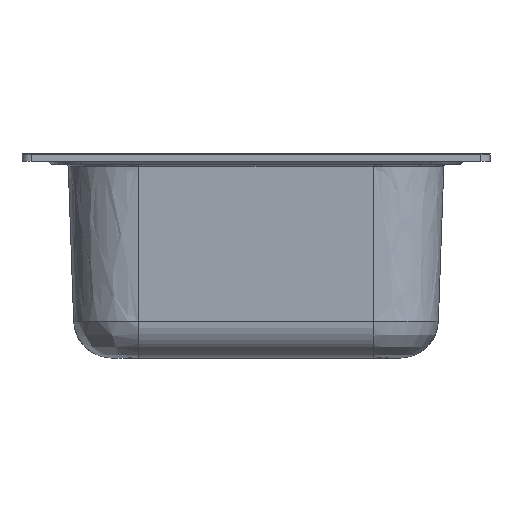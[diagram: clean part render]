
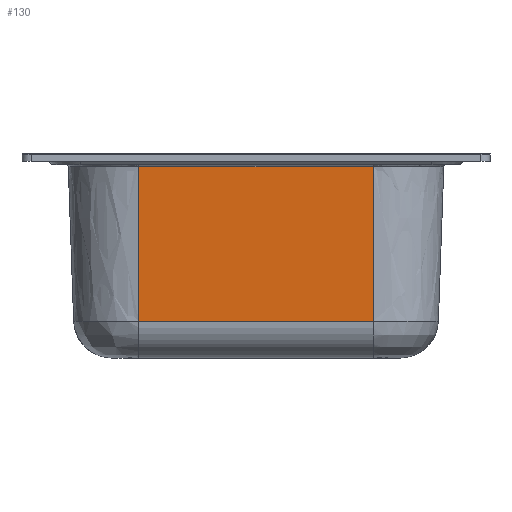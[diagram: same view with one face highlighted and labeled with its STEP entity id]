
A CAD part, left-side view. The second image highlights one B-rep face of the part: STEP entity #130.
In plain terms, the highlighted planar face has unit normal (-0.999, 0, -0.035).
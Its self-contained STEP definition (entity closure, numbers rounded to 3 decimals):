
#130=ADVANCED_FACE('',(#453),#454,.F.);
#453=FACE_OUTER_BOUND('',#1385,.T.);
#454=PLANE('',#1386);
#1385=EDGE_LOOP('',(#5600,#5601,#5602,#5603));
#1386=AXIS2_PLACEMENT_3D('',#5604,#5605,#5606);
#5600=ORIENTED_EDGE('',*,*,#8231,.F.);
#5601=ORIENTED_EDGE('',*,*,#8230,.F.);
#5602=ORIENTED_EDGE('',*,*,#8249,.F.);
#5603=ORIENTED_EDGE('',*,*,#8250,.T.);
#5604=CARTESIAN_POINT('',(657.914,0.,-94.221));
#5605=DIRECTION('',(0.999,0.0,0.035));
#5606=DIRECTION('',(0.0,-1.0,-0.0));
#8230=EDGE_CURVE('',#9169,#9155,#9171,.T.);
#8231=EDGE_CURVE('',#9155,#9172,#9173,.F.);
#8249=EDGE_CURVE('',#9203,#9169,#9204,.T.);
#8250=EDGE_CURVE('',#9203,#9172,#9205,.T.);
#9155=VERTEX_POINT('',#10733);
#9169=VERTEX_POINT('',#10786);
#9171=B_SPLINE_CURVE_WITH_KNOTS('',3,(#10796,#10797,#10798,#10799),.UNSPECIFIED.,.F.,.F.,(4,4),(38.628,204.018),.UNSPECIFIED.);
#9172=VERTEX_POINT('',#10800);
#9173=LINE('',#10801,#10802);
#9203=VERTEX_POINT('',#10898);
#9204=LINE('',#10899,#10900);
#9205=LINE('',#10901,#10902);
#10733=CARTESIAN_POINT('',(654.398,125.09,6.47));
#10786=CARTESIAN_POINT('',(660.17,125.09,-158.817));
#10796=CARTESIAN_POINT('',(660.17,125.09,-158.817));
#10797=CARTESIAN_POINT('',(658.246,125.09,-103.721));
#10798=CARTESIAN_POINT('',(656.322,125.09,-48.626));
#10799=CARTESIAN_POINT('',(654.398,125.09,6.47));
#10800=CARTESIAN_POINT('',(654.398,-125.09,6.47));
#10801=CARTESIAN_POINT('',(654.398,0.0,6.47));
#10802=VECTOR('',#16260,1.0);
#10898=CARTESIAN_POINT('',(660.17,-125.09,-158.817));
#10899=CARTESIAN_POINT('',(660.17,0.,-158.817));
#10900=VECTOR('',#16272,1.0);
#10901=CARTESIAN_POINT('',(657.284,-125.09,-76.174));
#10902=VECTOR('',#16273,1.0);
#16260=DIRECTION('',(0.0,1.0,0.0));
#16272=DIRECTION('',(0.0,1.0,0.0));
#16273=DIRECTION('',(-0.035,0.,0.999));
